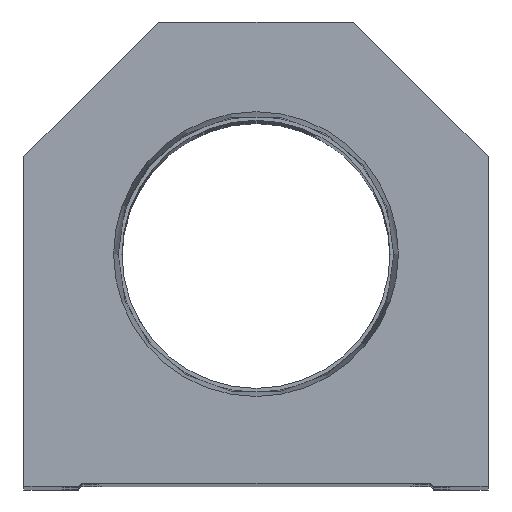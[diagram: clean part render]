
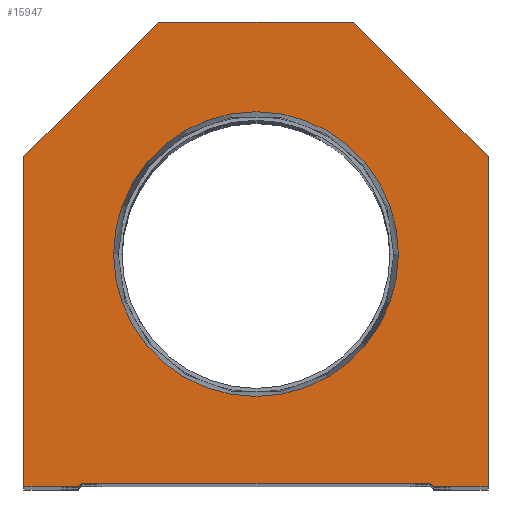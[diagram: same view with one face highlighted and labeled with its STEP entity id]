
A CAD part, top view. The second image highlights one B-rep face of the part: STEP entity #15947.
In plain terms, the highlighted planar face has unit normal (0, 0, 1).
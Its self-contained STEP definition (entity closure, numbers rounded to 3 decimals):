
#422 = VECTOR ( 'NONE', #5325, 1000. ) ;
#577 = VERTEX_POINT ( 'NONE', #2892 ) ;
#1145 = CARTESIAN_POINT ( 'NONE',  ( 38.1, 54.1, 0. ) ) ;
#1209 = EDGE_LOOP ( 'NONE', ( #21667, #11848 ) ) ;
#1674 = VERTEX_POINT ( 'NONE', #9295 ) ;
#1838 = VERTEX_POINT ( 'NONE', #10268 ) ;
#1936 = ORIENTED_EDGE ( 'NONE', *, *, #5529, .T. ) ;
#2122 = DIRECTION ( 'NONE',  ( -1., 0., 0. ) ) ;
#2489 = FACE_OUTER_BOUND ( 'NONE', #9120, .T. ) ;
#2521 = DIRECTION ( 'NONE',  ( -0.707, 0.707, 0. ) ) ;
#2711 = CARTESIAN_POINT ( 'NONE',  ( 0., 0., 0. ) ) ;
#2739 = ORIENTED_EDGE ( 'NONE', *, *, #5814, .T. ) ;
#2793 = DIRECTION ( 'NONE',  ( 0., -1., 0. ) ) ;
#2892 = CARTESIAN_POINT ( 'NONE',  ( -38.1, 0., 0. ) ) ;
#3452 = LINE ( 'NONE', #15781, #5730 ) ;
#3910 = CIRCLE ( 'NONE', #21463, 23.374 ) ;
#4416 = LINE ( 'NONE', #6085, #13206 ) ;
#4881 = LINE ( 'NONE', #18572, #422 ) ;
#4974 = CARTESIAN_POINT ( 'NONE',  ( 38.1, 0., 0. ) ) ;
#4997 = EDGE_CURVE ( 'NONE', #21138, #15125, #4416, .T. ) ;
#5110 = LINE ( 'NONE', #15203, #8241 ) ;
#5325 = DIRECTION ( 'NONE',  ( 0.707, 0.707, 0. ) ) ;
#5351 = CIRCLE ( 'NONE', #12849, 23.374 ) ;
#5529 = EDGE_CURVE ( 'NONE', #1838, #15927, #6648, .T. ) ;
#5692 = VERTEX_POINT ( 'NONE', #19554 ) ;
#5730 = VECTOR ( 'NONE', #15557, 1000. ) ;
#5814 = EDGE_CURVE ( 'NONE', #10568, #21684, #8795, .T. ) ;
#6085 = CARTESIAN_POINT ( 'NONE',  ( -28.6, 0.5, 0. ) ) ;
#6262 = CARTESIAN_POINT ( 'NONE',  ( 0., 38.1, 0. ) ) ;
#6264 = ORIENTED_EDGE ( 'NONE', *, *, #11937, .T. ) ;
#6383 = VECTOR ( 'NONE', #13940, 1000. ) ;
#6611 = ORIENTED_EDGE ( 'NONE', *, *, #19604, .T. ) ;
#6648 = LINE ( 'NONE', #4974, #6383 ) ;
#6685 = CARTESIAN_POINT ( 'NONE',  ( 29.1, 0., 0. ) ) ;
#7325 = LINE ( 'NONE', #20830, #20639 ) ;
#7456 = ORIENTED_EDGE ( 'NONE', *, *, #21989, .T. ) ;
#7559 = ORIENTED_EDGE ( 'NONE', *, *, #4997, .T. ) ;
#8241 = VECTOR ( 'NONE', #13385, 1000. ) ;
#8334 = LINE ( 'NONE', #9665, #20726 ) ;
#8523 = AXIS2_PLACEMENT_3D ( 'NONE', #2711, #19730, #16141 ) ;
#8795 = LINE ( 'NONE', #8916, #17168 ) ;
#8806 = CARTESIAN_POINT ( 'NONE',  ( 28.6, 0.5, 0. ) ) ;
#8916 = CARTESIAN_POINT ( 'NONE',  ( -38.1, 54.1, 0. ) ) ;
#9120 = EDGE_LOOP ( 'NONE', ( #17666, #18139, #7559, #6264, #10484, #1936, #6611, #13252, #2739, #7456 ) ) ;
#9252 = PLANE ( 'NONE',  #8523 ) ;
#9295 = CARTESIAN_POINT ( 'NONE',  ( -29.1, 0., 0. ) ) ;
#9547 = CARTESIAN_POINT ( 'NONE',  ( 16., 76.2, 0. ) ) ;
#9665 = CARTESIAN_POINT ( 'NONE',  ( -38.1, 0., 0. ) ) ;
#10268 = CARTESIAN_POINT ( 'NONE',  ( 38.1, 0., 0. ) ) ;
#10417 = EDGE_CURVE ( 'NONE', #1674, #21138, #4881, .T. ) ;
#10484 = ORIENTED_EDGE ( 'NONE', *, *, #16561, .T. ) ;
#10530 = DIRECTION ( 'NONE',  ( 0., 0., 1. ) ) ;
#10568 = VERTEX_POINT ( 'NONE', #20927 ) ;
#10585 = EDGE_CURVE ( 'NONE', #5692, #19287, #5351, .T. ) ;
#11193 = DIRECTION ( 'NONE',  ( 1., 0., 0. ) ) ;
#11848 = ORIENTED_EDGE ( 'NONE', *, *, #15834, .F. ) ;
#11937 = EDGE_CURVE ( 'NONE', #15125, #17749, #5110, .T. ) ;
#12008 = DIRECTION ( 'NONE',  ( 1., 0., 0. ) ) ;
#12337 = DIRECTION ( 'NONE',  ( 1., 0., 0. ) ) ;
#12451 = CARTESIAN_POINT ( 'NONE',  ( 0., 38.1, 0. ) ) ;
#12558 = LINE ( 'NONE', #17856, #16316 ) ;
#12682 = EDGE_CURVE ( 'NONE', #577, #1674, #16794, .T. ) ;
#12849 = AXIS2_PLACEMENT_3D ( 'NONE', #12451, #10530, #12337 ) ;
#12862 = FACE_BOUND ( 'NONE', #1209, .T. ) ;
#13078 = DIRECTION ( 'NONE',  ( 1., 0., 0. ) ) ;
#13206 = VECTOR ( 'NONE', #11193, 1000. ) ;
#13252 = ORIENTED_EDGE ( 'NONE', *, *, #20118, .T. ) ;
#13312 = CARTESIAN_POINT ( 'NONE',  ( -38.1, 54.1, 0. ) ) ;
#13385 = DIRECTION ( 'NONE',  ( 0.707, -0.707, 0. ) ) ;
#13940 = DIRECTION ( 'NONE',  ( 0., 1., 0. ) ) ;
#15125 = VERTEX_POINT ( 'NONE', #8806 ) ;
#15203 = CARTESIAN_POINT ( 'NONE',  ( 14.55, 14.55, 0. ) ) ;
#15337 = CARTESIAN_POINT ( 'NONE',  ( -28.6, 0.5, 0. ) ) ;
#15557 = DIRECTION ( 'NONE',  ( 1., 0., 0. ) ) ;
#15781 = CARTESIAN_POINT ( 'NONE',  ( 28.6, 0., 0. ) ) ;
#15813 = DIRECTION ( 'NONE',  ( -0.707, -0.707, 0. ) ) ;
#15834 = EDGE_CURVE ( 'NONE', #19287, #5692, #3910, .T. ) ;
#15927 = VERTEX_POINT ( 'NONE', #1145 ) ;
#15947 = ADVANCED_FACE ( 'NONE', ( #12862, #2489 ), #9252, .T. ) ;
#16141 = DIRECTION ( 'NONE',  ( 1., 0., 0. ) ) ;
#16316 = VECTOR ( 'NONE', #2521, 1000. ) ;
#16561 = EDGE_CURVE ( 'NONE', #17749, #1838, #3452, .T. ) ;
#16794 = LINE ( 'NONE', #20375, #17633 ) ;
#17168 = VECTOR ( 'NONE', #15813, 1000. ) ;
#17243 = CARTESIAN_POINT ( 'NONE',  ( -23.374, 38.1, 0. ) ) ;
#17633 = VECTOR ( 'NONE', #12008, 1000. ) ;
#17666 = ORIENTED_EDGE ( 'NONE', *, *, #12682, .T. ) ;
#17749 = VERTEX_POINT ( 'NONE', #6685 ) ;
#17856 = CARTESIAN_POINT ( 'NONE',  ( 38.1, 54.1, 0. ) ) ;
#18139 = ORIENTED_EDGE ( 'NONE', *, *, #10417, .T. ) ;
#18572 = CARTESIAN_POINT ( 'NONE',  ( -14.55, 14.55, 0. ) ) ;
#19287 = VERTEX_POINT ( 'NONE', #17243 ) ;
#19554 = CARTESIAN_POINT ( 'NONE',  ( 23.374, 38.1, 0. ) ) ;
#19604 = EDGE_CURVE ( 'NONE', #15927, #21983, #12558, .T. ) ;
#19730 = DIRECTION ( 'NONE',  ( 0., 0., 1. ) ) ;
#20118 = EDGE_CURVE ( 'NONE', #21983, #10568, #7325, .T. ) ;
#20375 = CARTESIAN_POINT ( 'NONE',  ( -28.6, 0., 0. ) ) ;
#20639 = VECTOR ( 'NONE', #2122, 1000. ) ;
#20726 = VECTOR ( 'NONE', #2793, 1000. ) ;
#20830 = CARTESIAN_POINT ( 'NONE',  ( 16., 76.2, 0. ) ) ;
#20927 = CARTESIAN_POINT ( 'NONE',  ( -16., 76.2, 0. ) ) ;
#21138 = VERTEX_POINT ( 'NONE', #15337 ) ;
#21463 = AXIS2_PLACEMENT_3D ( 'NONE', #6262, #21551, #13078 ) ;
#21551 = DIRECTION ( 'NONE',  ( 0., 0., 1. ) ) ;
#21667 = ORIENTED_EDGE ( 'NONE', *, *, #10585, .F. ) ;
#21684 = VERTEX_POINT ( 'NONE', #13312 ) ;
#21983 = VERTEX_POINT ( 'NONE', #9547 ) ;
#21989 = EDGE_CURVE ( 'NONE', #21684, #577, #8334, .T. ) ;
